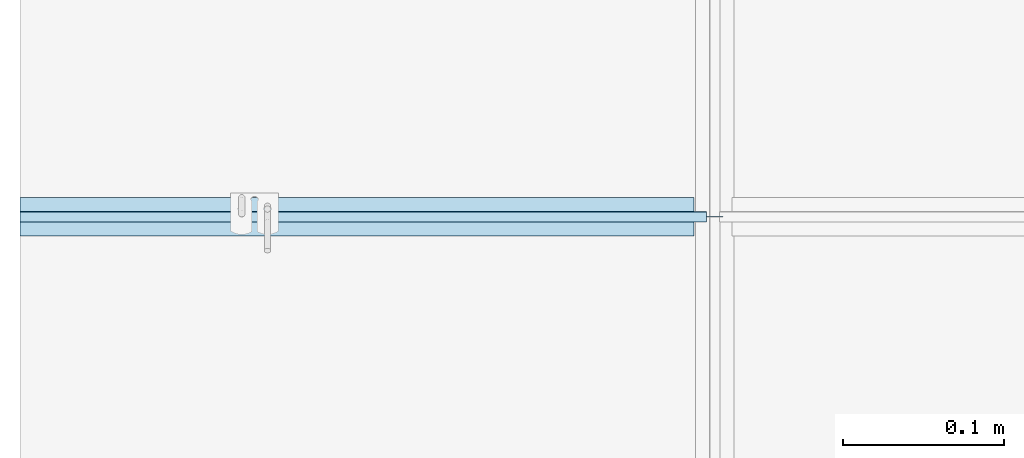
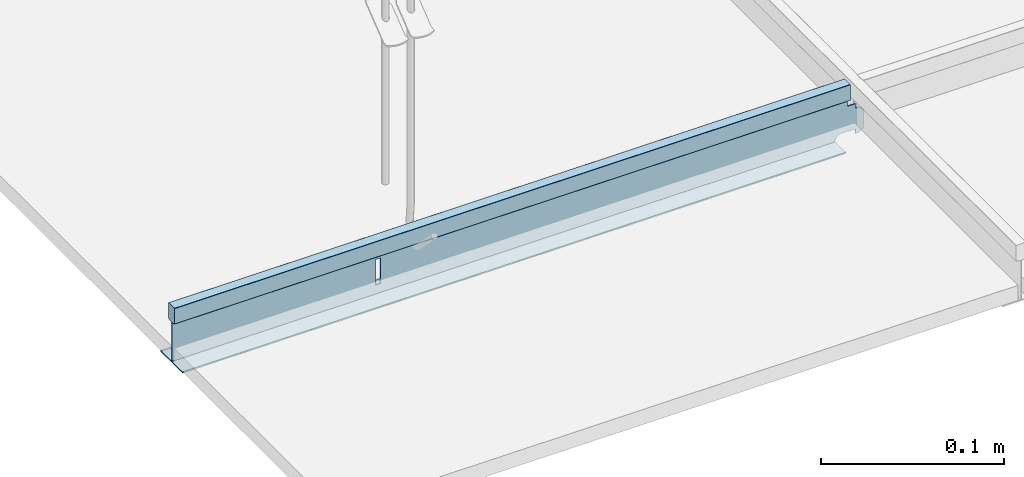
# One storey, part 4 of 79: 1 slab.
"""IFC2X3 building model written with IfcOpenShell, lengths in millimetres."""

import ifcopenshell
import ifcopenshell.guid

model = None  # the IFC model being written
_history = None  # IfcOwnerHistory: only IFC2X3 demands one
_inside = {}  # id of a spatial element -> (the spatial element, [elements in it])
_under = {}  # id of a project, library or spatial element -> (it, [spatial elements below it])
_declared = {}  # id of a project -> (the project, [libraries it declares])
_typed = {}  # id of a type object -> (the type object, [elements of that type])
_made_of = {}  # id of a material, layer set ... -> (it, [elements and type objects made of it])


def new_model(schema):
    """Start an empty IFC model of exactly this schema.

    Asked for "IFC4X3", IfcOpenShell would pick the latest addendum, in which some entities
    have other attributes; the version numbers below select the first issue.
    IFC2X3 requires an IfcOwnerHistory on every rooted entity: one is made here for all.
    """
    global model, _history
    if schema == "IFC4X3":
        model = ifcopenshell.file(schema_version=(4, 3, 0, 0))
    else:
        model = ifcopenshell.file(schema=schema)
    _inside.clear()
    _under.clear()
    _declared.clear()
    _typed.clear()
    _made_of.clear()
    _history = None
    if model.schema == "IFC2X3":
        org = make("IfcOrganization", Name="unknown")
        user = make(
            "IfcPersonAndOrganization",
            ThePerson=make("IfcPerson", FamilyName="unknown"),
            TheOrganization=org,
        )
        app = make(
            "IfcApplication",
            ApplicationDeveloper=org,
            Version="unknown",
            ApplicationFullName="unknown",
            ApplicationIdentifier="unknown",
        )
        _history = make(
            "IfcOwnerHistory",
            OwningUser=user,
            OwningApplication=app,
            ChangeAction="ADDED",
            CreationDate=0,
        )
    return model


def make(cls, **values):
    """One entity of the class cls with the attributes given. An attribute that is None is left unset."""
    return model.create_entity(
        cls, **{name: value for name, value in values.items() if value is not None}
    )


def entity(cls, *values):
    """Any entity or typed value of the class cls, its attributes in the order of the schema. None: left unset."""
    e = model.create_entity(cls)
    for i, value in enumerate(values):
        if value is not None:
            e[i] = value
    return e


def rooted(cls, **values):
    """An entity with a GlobalId (a new one), such as an element, a storey or a relation."""
    return make(cls, GlobalId=ifcopenshell.guid.new(), OwnerHistory=_history, **values)


def si_unit(unit_type, name, prefix=None):
    """IfcSIUnit, for example si_unit("LENGTHUNIT", "METRE", prefix="MILLI")."""
    return make("IfcSIUnit", UnitType=unit_type, Prefix=prefix, Name=name)


def converted_unit(unit_type, name, factor, base, dimensions=None, offset=None):
    """IfcConversionBasedUnit, such as the inch: factor (a typed value) times the base unit."""
    return make(
        "IfcConversionBasedUnit"
        if offset is None
        else "IfcConversionBasedUnitWithOffset",
        ConversionOffset=offset,
        Dimensions=None
        if dimensions is None
        else entity("IfcDimensionalExponents", *dimensions),
        UnitType=unit_type,
        Name=name,
        ConversionFactor=make(
            "IfcMeasureWithUnit", ValueComponent=factor, UnitComponent=base
        ),
    )


def assignment(units):
    """IfcUnitAssignment: the units of a project."""
    return None if units is None else make("IfcUnitAssignment", Units=units)


def point(xyz):
    """IfcCartesianPoint."""
    return None if xyz is None else make("IfcCartesianPoint", Coordinates=xyz)


def direction(xyz):
    """IfcDirection."""
    return None if xyz is None else make("IfcDirection", DirectionRatios=xyz)


def frame(location, z_axis=None, x_axis=None):
    """IfcAxis2Placement3D, a coordinate frame: its origin and axes. An axis left out is left unset."""
    return make(
        "IfcAxis2Placement3D",
        Location=point(location),
        Axis=direction(z_axis),
        RefDirection=direction(x_axis),
    )


def origin():
    """The frame at (0, 0, 0) with its axes left unset."""
    return frame((0.0, 0.0, 0.0))


def origin_with_axes():
    """The frame at (0, 0, 0) with the z axis (0, 0, 1) and the x axis (1, 0, 0) written out."""
    return frame((0.0, 0.0, 0.0), z_axis=(0.0, 0.0, 1.0), x_axis=(1.0, 0.0, 0.0))


def place(relative_to, where):
    """IfcLocalPlacement: puts the frame where relative to a parent placement (None: the world)."""
    return make(
        "IfcLocalPlacement", PlacementRelTo=relative_to, RelativePlacement=where
    )


def context(
    kind, dimensions, precision=None, world=None, true_north=None, identifier=None
):
    """IfcGeometricRepresentationContext, for example the 3D "Model" context."""
    return make(
        "IfcGeometricRepresentationContext",
        ContextIdentifier=identifier,
        ContextType=kind,
        CoordinateSpaceDimension=dimensions,
        Precision=precision,
        WorldCoordinateSystem=world,
        TrueNorth=true_north,
    )


def project(units=None, contexts=None):
    """IfcProject with its units and contexts."""
    return rooted(
        "IfcProject",
        Name="project",
        RepresentationContexts=contexts,
        UnitsInContext=assignment(units),
    )


def spatial(cls, under=None, at=None, **own):
    """A site, building, storey or space (cls), placed at a placement, below another one or the project."""
    s = rooted(cls, ObjectPlacement=at, **own)
    if under is not None:
        _under.setdefault(under.id(), (under, []))[1].append(s)
    return s


def faces_of(points, faces, orient=None, outer=None):
    """IfcFace entities. A face is a list of loops; a loop is a list of indices into points, from 0.

    orient and outer hold one flag for each loop. By default every Orientation is true, the
    first loop of a face is its IfcFaceOuterBound and the others are IfcFaceBound.
    """
    made = []
    for i, loops in enumerate(faces):
        bounds = []
        for j, loop in enumerate(loops):
            is_outer = j == 0 if outer is None else outer[i][j]
            bounds.append(
                make(
                    "IfcFaceOuterBound" if is_outer else "IfcFaceBound",
                    Bound=make("IfcPolyLoop", Polygon=[points[k] for k in loop]),
                    Orientation=True if orient is None else orient[i][j],
                )
            )
        made.append(make("IfcFace", Bounds=bounds))
    return made


def faceted_brep(points, faces, orient=None, outer=None, voids=None):
    """IfcFacetedBrep: a solid bounded by flat faces; with voids (closed shells), ...WithVoids."""
    shared = [point(p) for p in points]
    hull = make("IfcClosedShell", CfsFaces=faces_of(shared, faces, orient, outer))
    if voids is None:
        return make("IfcFacetedBrep", Outer=hull)
    return make(
        "IfcFacetedBrepWithVoids",
        Outer=hull,
        Voids=[
            make(cls, CfsFaces=faces_of(shared, fs, o, b)) for cls, fs, o, b in voids
        ],
    )


def shape(context_of_items, identifier, shape_type, items):
    """IfcShapeRepresentation: the items that make up one representation, for example the "Body"."""
    return make(
        "IfcShapeRepresentation",
        ContextOfItems=context_of_items,
        RepresentationIdentifier=identifier,
        RepresentationType=shape_type,
        Items=items,
    )


def made_of(thing, what):
    """Note that an element or type object is made of a material, layer set ...; save() writes the relation."""
    if what is not None:
        _made_of.setdefault(what.id(), (what, []))[1].append(thing)
    return thing


def element(
    cls,
    number,
    at=None,
    inside=None,
    cuts=None,
    type_object=None,
    material=None,
    context=None,
    identifier="Body",
    shape_type=None,
    held_by="IfcProductDefinitionShape",
    body=None,
    shapes=None,
    **own,
):
    """One element of the class cls, such as IfcWall. Its Tag is "e" and its number.

    at: its placement. inside: the storey or other place that contains it. cuts: it is an
    opening in that element (IfcRelVoidsElement). A single representation is given by context,
    identifier, shape_type and body (its items); several are given by shapes. held_by: the class
    of the entity that holds the representations. save() writes the other relations.
    """
    e = rooted(cls, Tag="e%d" % number, ObjectPlacement=at, **own)
    if body is not None:
        shapes = [shape(context, identifier, shape_type, body)]
    if shapes is not None:
        e.Representation = make(held_by, Representations=shapes)
    if inside is not None:
        _inside.setdefault(inside.id(), (inside, []))[1].append(e)
    if cuts is not None:
        rooted(
            "IfcRelVoidsElement", RelatingBuildingElement=cuts, RelatedOpeningElement=e
        )
    if type_object is not None:
        _typed.setdefault(type_object.id(), (type_object, []))[1].append(e)
    return made_of(e, material)


def aggregate(whole, parts):
    """IfcRelAggregates: a whole, such as a stair, and the parts it consists of."""
    return rooted("IfcRelAggregates", RelatingObject=whole, RelatedObjects=parts)


def save(model, path):
    """Write the relations noted so far, then the file.

    IfcRelAggregates (storeys below a building ...), IfcRelContainedInSpatialStructure (elements
    in a storey), IfcRelDefinesByType, IfcRelAssociatesMaterial and IfcRelDeclares: one each for
    every whole, place, type object, material and project.
    """
    for whole, parts in _under.values():
        aggregate(whole, parts)
    for where, things in _inside.values():
        rooted(
            "IfcRelContainedInSpatialStructure",
            RelatedElements=things,
            RelatingStructure=where,
        )
    for kind, things in _typed.values():
        rooted("IfcRelDefinesByType", RelatedObjects=things, RelatingType=kind)
    for what, things in _made_of.values():
        rooted("IfcRelAssociatesMaterial", RelatedObjects=things, RelatingMaterial=what)
    for by, libraries in _declared.values():
        rooted("IfcRelDeclares", RelatingContext=by, RelatedDefinitions=libraries)
    model.write(path)


model = new_model("IFC2X3")

# Units and contexts
model_context = context("Model", 3, precision=1e-05, world=origin(), true_north=direction((0.0, 1.0, 0.0)))
ifc_project = project(units=[si_unit("LENGTHUNIT", "METRE", prefix="MILLI"), si_unit("AREAUNIT", "SQUARE_METRE"), si_unit("VOLUMEUNIT", "CUBIC_METRE"), converted_unit("PLANEANGLEUNIT", "DEGREE", entity("IfcPlaneAngleMeasure", 0.01745), si_unit("PLANEANGLEUNIT", "RADIAN"), dimensions=[0, 0, 0, 0, 0, 0, 0]), si_unit("SOLIDANGLEUNIT", "STERADIAN"), si_unit("MASSUNIT", "GRAM"), si_unit("TIMEUNIT", "SECOND"), si_unit("THERMODYNAMICTEMPERATUREUNIT", "DEGREE_CELSIUS"), si_unit("LUMINOUSINTENSITYUNIT", "LUMEN")], contexts=[model_context])

# Site, building, storey
site_placement = place(None, origin_with_axes())
site = spatial("IfcSite", under=ifc_project, at=site_placement, Name="Default Site", CompositionType="ELEMENT")
building_placement = place(site_placement, origin_with_axes())
building = spatial("IfcBuilding", under=site, at=building_placement, Name="Default Building", CompositionType="ELEMENT")
storey_placement = place(building_placement, origin_with_axes())
storey = spatial("IfcBuildingStorey", under=building, at=storey_placement, Name="Default Building Storey", CompositionType="ELEMENT", Elevation=0.0)

# Slab
slab_placement = place(storey_placement, frame((2125.025133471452, 1006.690020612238, 980.3264390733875), z_axis=(-1.0, 0.0, 0.0), x_axis=(0.0, 0.0, 1.0)))
element("IfcSlab", 1, at=slab_placement, inside=storey, Name="Profil poprzeczny RIGIPS T24", context=model_context, shape_type="Brep", body=[
    faceted_brep([(0.9587785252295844, 0.08090169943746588, 0.0), (0.8587785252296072, -0.01909830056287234, 0.0), (0.8587785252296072, -0.01909832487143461, -418.140258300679), (0.9587785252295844, 0.08090167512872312, -418.1402583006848), (0.05877852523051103, -0.01909832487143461, -418.140258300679), (0.0278768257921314, -0.01420397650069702, -418.140258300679), (3.609557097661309e-13, -2.430874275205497e-08, -418.14025830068), (-0.02212317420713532, 0.02212314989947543, -418.1402583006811), (-0.03632712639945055, 0.04999997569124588, -418.1402583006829), (-0.04122147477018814, 0.08090167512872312, -418.1402583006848), (-0.04122147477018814, 23.88090167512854, -418.1402583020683), (-0.03632712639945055, 23.91180337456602, -418.1402583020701), (-0.02212317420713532, 23.93968020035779, -418.1402583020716), (3.609557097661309e-13, 23.96180337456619, -418.140258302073), (0.0278768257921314, 23.97600732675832, -418.1402583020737), (0.05877852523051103, 23.98090167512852, -418.1402583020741), (0.8587785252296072, 23.98090167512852, -418.1402583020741), (0.9587785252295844, 23.88090167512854, -418.1402583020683), (0.9587785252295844, 22.98090167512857, -418.140258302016), (0.7587785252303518, 22.98090167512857, -418.1402583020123), (0.4587785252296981, 22.98090167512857, -418.140258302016), (0.4587785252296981, 0.9809016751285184, -418.1402583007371), (0.7587785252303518, 0.9809016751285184, -418.1402583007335), (0.9587785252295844, 0.9809016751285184, -418.1402583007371), (0.9587785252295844, 0.9809016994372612, 0.0), (0.05877852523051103, -0.01909830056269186, 0.0), (-0.02212317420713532, 0.02212317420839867, 0.0), (-0.03632712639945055, 0.05000000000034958, 0.0), (0.0278768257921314, -0.01420395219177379, -3.609557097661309e-13), (-0.04122147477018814, 0.08090169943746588, 0.0), (-0.04122147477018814, 22.98090169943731, 0.0), (-0.04122147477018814, 23.88090169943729, 0.0), (0.0, 0.0, 0.0), (0.8896802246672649, 23.97600732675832, -418.1402583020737), (0.9175570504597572, 23.96180337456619, -418.140258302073), (0.9396802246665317, 23.93968020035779, -418.1402583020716), (0.9538841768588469, 23.91180337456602, -418.1402583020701), (0.7587785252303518, 0.9809016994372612, 0.0), (0.4587785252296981, 0.9809016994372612, 0.0), (0.4587785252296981, 22.98090169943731, 0.0), (0.7587785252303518, 22.98090169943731, 0.0), (0.9587785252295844, 22.98090169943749, 0.0), (0.9587785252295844, 23.88090169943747, 0.0), (0.9538841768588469, 23.91180339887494, 0.0), (0.9396802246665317, 23.93968022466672, 0.0), (0.9175570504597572, 23.96180339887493, -3.609557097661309e-13), (0.8896802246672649, 23.97600735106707, -3.609557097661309e-13), (0.8587785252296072, 23.98090169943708, 0.0), (0.05877852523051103, 23.98090169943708, 0.0), (0.0278768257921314, 23.97600735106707, -3.609557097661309e-13), (3.609557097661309e-13, 23.96180339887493, -3.609557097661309e-13), (-0.02212317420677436, 23.93968022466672, 0.0), (-0.03632712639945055, 23.91180339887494, 0.0), (27.62820394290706, 8.730901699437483, 0.0), (37.75877852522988, 8.730901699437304, 0.0), (37.79006541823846, 8.733364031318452, 0.0), (37.82058192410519, 8.740690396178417, 0.0), (37.84957662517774, 8.7527003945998, 0.0), (37.87633557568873, 8.769098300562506, 0.0), (37.90019988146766, 8.789480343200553, 0.0), (37.92058192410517, 8.813344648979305, 0.0), (37.9369798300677, 8.84010359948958, 0.0), (37.94898982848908, 8.869098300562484, 0.0), (37.95631619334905, 8.899614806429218, 0.0), (37.95877852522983, 8.930901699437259, 0.0), (37.95877852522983, 15.03090169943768, 0.0), (37.95631619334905, 15.06218859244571, 0.0), (37.94898982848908, 15.09270509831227, 0.0), (37.9369798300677, 15.12169979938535, 0.0), (37.92058192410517, 15.14845874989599, 3.609557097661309e-13), (37.90019988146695, 15.17232305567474, 0.0), (37.87633557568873, 15.19270509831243, 0.0), (37.84957662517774, 15.20910300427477, 0.0), (37.82058192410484, 15.22111300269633, 0.0), (37.79006541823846, 15.22843936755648, 0.0), (37.75877852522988, 15.23090169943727, 0.0), (27.62820394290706, 15.23090169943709, 0.0), (27.60018347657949, 15.22892910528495, 0.0), (27.57271574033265, 15.22305023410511, 0.0), (27.54634256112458, 15.21338105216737, 0.0), (27.52158417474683, 15.20011229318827, 0.0), (27.49892896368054, 15.18350569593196, 0.0), (27.47882382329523, 15.16388884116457, 0.0), (27.46166534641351, 15.14164868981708, 0.0), (27.44779200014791, 15.11722394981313, 0.0), (27.43747744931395, 15.09109642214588, 0.0), (27.43092515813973, 15.06378149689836, 0.0), (26.98663189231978, 12.3980219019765, 0.0), (26.98007960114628, 12.37070697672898, 0.0), (26.96976505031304, 12.34457944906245, 0.0), (26.95589170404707, 12.32015470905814, 3.609557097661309e-13), (26.93873322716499, 12.29791455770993, 0.0), (26.91862808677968, 12.27829770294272, 0.0), (26.89597287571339, 12.26169110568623, 0.0), (26.87121448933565, 12.24842234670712, 0.0), (26.84484131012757, 12.2387531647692, 0.0), (26.81737357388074, 12.23287429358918, 0.0), (26.78935310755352, 12.23090169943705, 0.0), (25.09799981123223, 12.23090169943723, 0.0), (0.7587785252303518, 12.23090169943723, 0.0), (0.7587785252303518, 11.73090169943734, 0.0), (26.78935310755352, 11.73090169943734, 0.0), (26.81737357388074, 11.72892910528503, 0.0), (26.84484131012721, 11.72305023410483, 0.0), (26.87121448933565, 11.71338105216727, 0.0), (26.89597287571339, 11.70011229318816, 0.0), (26.91862808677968, 11.68350569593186, 0.0), (26.93873322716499, 11.66388884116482, 3.609557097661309e-13), (26.95589170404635, 11.64164868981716, 0.0), (26.96976505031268, 11.61722394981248, 0.0), (26.98007960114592, 11.59109642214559, 0.0), (26.98663189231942, 11.56378149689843, 0.0), (27.43092515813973, 8.898021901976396, 0.0), (27.43747744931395, 8.870706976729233, 0.0), (27.44779200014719, 8.844579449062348, 0.0), (27.46166534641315, 8.820154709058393, 0.0), (27.47882382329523, 8.797914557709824, 0.0), (27.49892896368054, 8.77829770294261, 0.0), (27.52158417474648, 8.761691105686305, 0.0), (27.54634256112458, 8.74842234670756, 0.0), (27.57271574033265, 8.738753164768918, 0.0), (27.60018347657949, 8.732874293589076, 0.0), (27.47882382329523, 8.797914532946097, -425.9654847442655), (27.46166534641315, 8.820154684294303, -425.9654847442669), (27.54634256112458, 8.748422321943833, -425.9654847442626), (27.52158417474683, 8.761691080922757, -425.9654847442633), (6.789353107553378, 12.23090169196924, -128.4654847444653), (6.789353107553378, 11.73090169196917, -128.465484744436), (6.789353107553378, 11.73090169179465, -131.4654847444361), (6.789353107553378, 12.23090169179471, -131.4654847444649), (0.7587785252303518, 12.23090167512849, -418.1402583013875), (23.78935310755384, 12.23090169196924, -128.4654847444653), (23.78935310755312, 12.23090169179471, -131.4654847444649), (26.78935310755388, 12.2309016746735, -425.9654847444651), (21.78935310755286, 12.23090167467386, -425.9654847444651), (21.78935310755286, 12.23090167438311, -430.9654847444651), (18.78935310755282, 12.23090167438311, -430.9654847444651), (18.78935310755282, 12.23090167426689, -432.965484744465), (16.78935310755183, 12.23090167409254, -435.965484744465), (3.789353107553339, 12.23090167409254, -435.965484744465), (1.789353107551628, 12.23090167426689, -432.965484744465), (1.789353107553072, 12.23090167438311, -430.9654847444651), (4.789353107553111, 12.23090167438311, -430.9654847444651), (4.789353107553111, 12.23090167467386, -425.9654847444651), (4.964126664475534, 12.2309016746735, -425.9654847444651), (4.964126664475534, 12.23090167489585, -422.1402583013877), (4.914880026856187, 12.23090167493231, -421.5145204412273), (4.768352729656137, 12.23090167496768, -420.9041903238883), (4.528152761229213, 12.23090167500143, -420.3242963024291), (4.200194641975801, 12.23090167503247, -419.7891172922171), (3.7925537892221, 12.23090167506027, -419.311831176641), (3.31526767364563, 12.23090167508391, -418.9041903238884), (2.78008866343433, 12.23090167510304, -418.5762322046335), (2.200194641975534, 12.23090167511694, -418.3360322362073), (1.589864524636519, 12.2309016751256, -418.1895049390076), (0.9641266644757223, 12.23090167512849, -418.1402583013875), (26.81737357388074, 11.72892908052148, -425.9654847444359), (26.78935310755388, 11.7309016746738, -425.9654847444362), (23.78935310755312, 11.73090169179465, -131.4654847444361), (23.78935310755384, 11.73090169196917, -128.465484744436), (27.49892896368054, 8.778297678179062, -425.9654847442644), (0.7587785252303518, 11.73090167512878, -418.1402583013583), (26.81737357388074, 12.23287426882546, -425.9654847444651), (26.91862808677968, 11.68350567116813, -425.9654847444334), (26.89597287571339, 11.70011226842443, -425.965484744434), (26.87121448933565, 12.24842232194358, -425.9654847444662), (26.89597287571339, 12.26169108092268, -425.9654847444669), (26.84484131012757, 12.23875314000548, -425.9654847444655), (26.84484131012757, 11.72305020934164, -425.9654847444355), (27.44779200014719, 8.84457942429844, -425.965484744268), (26.93873322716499, 11.66388881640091, -425.9654847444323), (1.589864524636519, 11.73090167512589, -418.1895049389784), (2.200194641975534, 11.73090167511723, -418.3360322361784), (26.98007960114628, 12.37070695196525, -425.965484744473), (26.98663189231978, 12.39802187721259, -425.9654847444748), (26.98663189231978, 11.5637814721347, -425.9654847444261), (26.98007960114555, 11.59109639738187, -425.9654847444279), (26.96976505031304, 12.34457942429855, -425.9654847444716), (27.54634256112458, 15.21338102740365, -425.9654847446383), (27.57271574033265, 15.22305020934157, -425.9654847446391), (26.95589170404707, 12.32015468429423, -425.9654847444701), (27.43747744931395, 8.870706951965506, -425.9654847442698), (26.87121448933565, 11.71338102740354, -425.9654847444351), (27.43092515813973, 8.898021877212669, -425.9654847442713), (26.95589170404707, 11.64164866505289, -425.9654847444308), (26.91862808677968, 12.27829767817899, -425.965484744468), (27.43092515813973, 15.06378147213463, -425.9654847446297), (26.96976505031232, 11.61722392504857, -425.9654847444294), (26.93873322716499, 12.2979145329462, -425.9654847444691), (27.62820394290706, 8.730901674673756, -425.9654847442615), (27.60018347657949, 8.732874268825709, -425.9654847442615), (27.60018347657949, 15.22892908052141, -425.9654847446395), (27.62820394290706, 15.23090167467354, -425.9654847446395), (27.57271574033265, 8.73875314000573, -425.9654847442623), (0.9641266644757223, 11.73090167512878, -418.1402583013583), (2.78008866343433, 11.73090167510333, -418.5762322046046), (3.31526767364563, 11.7309016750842, -418.9041903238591), (3.7925537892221, 11.73090167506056, -419.3118311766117), (4.200194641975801, 11.73090167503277, -419.7891172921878), (4.528152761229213, 11.73090167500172, -420.3242963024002), (4.768352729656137, 11.73090167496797, -420.904190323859), (4.914880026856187, 11.7309016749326, -421.514520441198), (4.964126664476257, 11.73090167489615, -422.1402583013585), (4.964126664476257, 11.7309016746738, -425.9654847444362), (4.789353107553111, 11.7309016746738, -425.9654847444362), (4.789353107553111, 11.73090167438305, -430.9654847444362), (1.789353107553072, 11.73090167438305, -430.9654847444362), (1.789353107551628, 11.73090167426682, -432.9654847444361), (3.789353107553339, 11.73090167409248, -435.9654847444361), (16.78935310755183, 11.73090167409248, -435.9654847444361), (18.78935310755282, 11.73090167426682, -432.9654847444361), (18.78935310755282, 11.73090167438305, -430.9654847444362), (21.78935310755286, 11.73090167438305, -430.9654847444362), (21.78935310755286, 11.7309016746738, -425.9654847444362), (27.49892896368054, 15.18350567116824, -425.9654847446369), (27.52158417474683, 15.20011226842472, -425.9654847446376), (37.75877852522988, 15.23090167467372, -425.9654847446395), (37.90019988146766, 8.789480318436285, -425.9654847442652), (37.87633557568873, 8.7690982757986, -425.9654847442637), (27.43747744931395, 15.09109639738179, -425.9654847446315), (37.95877852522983, 8.93090167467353, -425.9654847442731), (37.95631619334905, 8.89961478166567, -425.9654847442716), (27.44779200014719, 15.11722392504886, -425.9654847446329), (37.79006541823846, 15.22843934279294, -425.9654847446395), (37.90019988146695, 15.17232303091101, -425.9654847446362), (37.92058192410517, 15.14845872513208, -425.9654847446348), (37.84957662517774, 15.20910297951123, -425.9654847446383), (37.87633557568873, 15.1927050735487, -425.9654847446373), (37.94898982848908, 8.869098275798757, -425.9654847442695), (37.9369798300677, 8.840103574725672, -425.965484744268), (37.92058192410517, 8.813344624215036, -425.9654847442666), (27.47882382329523, 15.16388881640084, -425.9654847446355), (27.46166534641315, 15.14164866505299, -425.9654847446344), (37.94898982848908, 15.09270507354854, -425.9654847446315), (37.95631619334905, 15.06218856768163, -425.9654847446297), (37.82058192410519, 15.22111297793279, -425.9654847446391), (37.95877852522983, 15.03090167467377, -425.9654847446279), (37.75877852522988, 8.730901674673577, -425.9654847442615), (37.84957662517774, 8.752700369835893, -425.9654847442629), (37.82058192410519, 8.74069037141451, -425.9654847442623), (37.9369798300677, 15.12169977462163, -425.9654847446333), (37.79006541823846, 8.733364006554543, -425.9654847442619)], [[[0, 1, 2, 3]], [[2, 4, 5, 6, 7, 8, 9, 10, 11, 12, 13, 14, 15, 16, 17, 18, 19, 20, 21, 22, 23, 3]], [[23, 24, 0, 3]], [[2, 1, 25, 4]], [[7, 26, 27, 8]], [[4, 25, 28, 5]], [[9, 29, 30, 31, 10]], [[6, 32, 26, 7]], [[8, 27, 29, 9]], [[5, 28, 32, 6]], [[33, 34, 35, 36, 17, 16]], [[30, 29, 27, 26, 32, 28, 25, 1, 0, 24, 37, 38, 39]], [[30, 39, 40, 41, 42, 43, 44, 45, 46, 47, 48, 49, 50, 51, 52, 31]], [[16, 47, 46, 33]], [[33, 46, 45, 34]], [[36, 43, 42, 17]], [[14, 49, 48, 15]], [[15, 48, 47, 16]], [[11, 52, 51, 12]], [[12, 51, 50, 13]], [[34, 45, 44, 35]], [[35, 44, 43, 36]], [[17, 42, 41, 18]], [[10, 31, 52, 11]], [[13, 50, 49, 14]], [[53, 54, 55, 56, 57, 58, 59, 60, 61, 62, 63, 64, 65, 66, 67, 68, 69, 70, 71, 72, 73, 74, 75, 76, 77, 78, 79, 80, 81, 82, 83, 84, 85, 86, 87, 88, 89, 90, 91, 92, 93, 94, 95, 96, 97, 98, 99, 40, 39, 38, 37, 100, 101, 102, 103, 104, 105, 106, 107, 108, 109, 110, 111, 112, 113, 114, 115, 116, 117, 118, 119, 120, 121]], [[18, 41, 40, 19]], [[22, 37, 24, 23]], [[122, 116, 115, 123]], [[124, 119, 118, 125]], [[126, 127, 128, 129]], [[130, 99, 98, 131, 126, 129, 132, 133, 134, 135, 136, 137, 138, 139, 140, 141, 142, 143, 144, 145, 146, 147, 148, 149, 150, 151, 152, 153, 154, 155]], [[156, 102, 101, 157]], [[132, 158, 159, 131]], [[160, 117, 116, 122]], [[161, 100, 37, 22]], [[21, 38, 37, 22]], [[133, 97, 96, 162]], [[163, 106, 105, 164]], [[165, 94, 93, 166]], [[167, 95, 94, 165]], [[168, 103, 102, 156]], [[123, 115, 114, 169]], [[170, 107, 106, 163]], [[158, 128, 171, 172]], [[131, 159, 127, 126]], [[173, 88, 87, 174]], [[175, 111, 110, 176]], [[177, 89, 88, 173]], [[178, 79, 78, 179]], [[180, 90, 89, 177]], [[169, 114, 113, 181]], [[129, 128, 158, 132]], [[131, 98, 97, 133, 132]], [[182, 104, 103, 168]], [[181, 113, 112, 183]], [[183, 112, 111, 175]], [[164, 105, 104, 182]], [[19, 40, 39, 20]], [[125, 118, 117, 160]], [[184, 108, 107, 170]], [[166, 93, 92, 185]], [[174, 87, 86, 186]], [[187, 109, 108, 184]], [[19, 40, 99, 130]], [[188, 91, 90, 180]], [[189, 53, 121, 190]], [[185, 92, 91, 188]], [[162, 96, 95, 167]], [[191, 77, 76, 192]], [[21, 38, 39, 20]], [[193, 120, 119, 124]], [[190, 121, 120, 193]], [[179, 78, 77, 191]], [[157, 101, 100, 161, 194, 171, 128, 127, 159, 158, 172, 195, 196, 197, 198, 199, 200, 201, 202, 203, 204, 205, 206, 207, 208, 209, 210, 211, 212, 213]], [[176, 110, 109, 187]], [[214, 81, 80, 215]], [[192, 76, 75, 216]], [[217, 59, 58, 218]], [[186, 86, 85, 219]], [[220, 64, 63, 221]], [[219, 85, 84, 222]], [[216, 75, 74, 223]], [[208, 139, 138, 209]], [[195, 152, 151, 196]], [[224, 70, 69, 225]], [[212, 135, 134, 213]], [[226, 72, 71, 227]], [[221, 63, 62, 228]], [[205, 142, 141, 206]], [[200, 147, 146, 201]], [[172, 153, 152, 195]], [[161, 22, 21, 20, 19, 130, 155, 194]], [[229, 61, 60, 230]], [[231, 82, 81, 214]], [[232, 83, 82, 231]], [[222, 84, 83, 232]], [[233, 67, 66, 234]], [[223, 74, 73, 235]], [[209, 138, 137, 210]], [[189, 183, 175, 176, 187, 184, 170, 163, 164, 182, 180, 177, 173, 174, 186, 192, 216, 236, 220, 237]], [[238, 57, 56, 239]], [[237, 54, 53, 189]], [[144, 203, 202, 145]], [[153, 172, 171, 154]], [[225, 69, 68, 240]], [[241, 55, 54, 237]], [[230, 60, 59, 217]], [[228, 62, 61, 229]], [[204, 203, 144, 143]], [[194, 155, 154, 171]], [[239, 56, 55, 241]], [[204, 143, 142, 205]], [[211, 136, 135, 212]], [[206, 141, 140, 207]], [[210, 137, 136, 211]], [[235, 73, 72, 226]], [[199, 148, 147, 200]], [[227, 71, 70, 224]], [[240, 68, 67, 233]], [[236, 65, 64, 220]], [[182, 168, 180]], [[215, 80, 79, 178]], [[234, 66, 65, 236]], [[218, 58, 57, 238]], [[156, 157, 213, 134, 133, 162, 167, 165, 166, 185, 168]], [[148, 199, 198, 149]], [[150, 197, 196, 151]], [[145, 202, 201, 146]], [[197, 150, 149, 198]], [[207, 140, 139, 208]]]),
])

save(model, "model.ifc")
